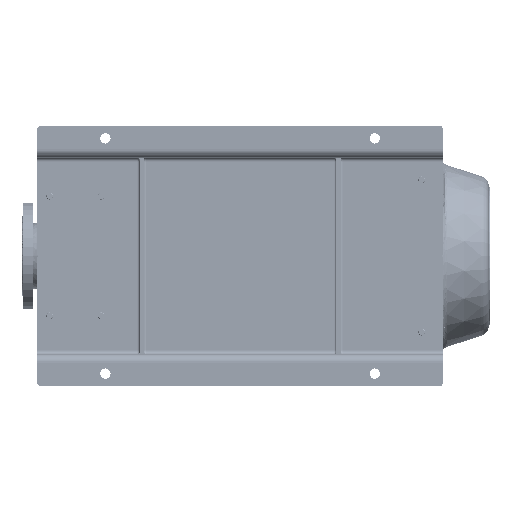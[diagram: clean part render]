
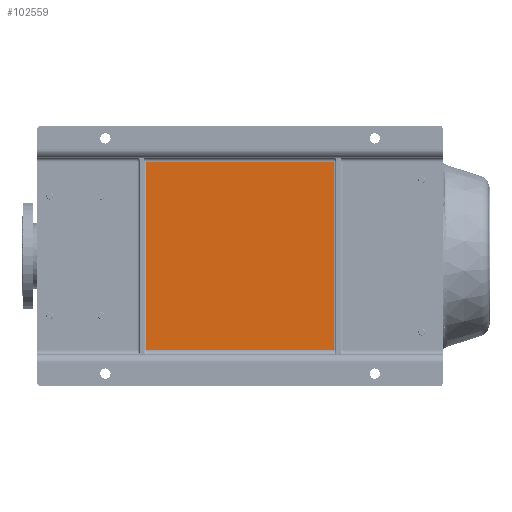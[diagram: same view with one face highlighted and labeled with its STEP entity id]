
A CAD part, front view. The second image highlights one B-rep face of the part: STEP entity #102559.
In plain terms, the highlighted planar face has unit normal (0, -1, 0).
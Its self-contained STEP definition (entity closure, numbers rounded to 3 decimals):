
#3057 = EDGE_LOOP ( 'NONE', ( #17806, #8349, #118860, #32177 ) ) ;
#5093 = VERTEX_POINT ( 'NONE', #121603 ) ;
#8349 = ORIENTED_EDGE ( 'NONE', *, *, #40407, .T. ) ;
#8722 = EDGE_CURVE ( 'NONE', #5093, #21348, #69111, .T. ) ;
#13846 = VERTEX_POINT ( 'NONE', #145608 ) ;
#17443 = FACE_OUTER_BOUND ( 'NONE', #3057, .T. ) ;
#17806 = ORIENTED_EDGE ( 'NONE', *, *, #28039, .T. ) ;
#21348 = VERTEX_POINT ( 'NONE', #156849 ) ;
#27293 = VECTOR ( 'NONE', #54762, 1000. ) ;
#28039 = EDGE_CURVE ( 'NONE', #13846, #58719, #119956, .T. ) ;
#32177 = ORIENTED_EDGE ( 'NONE', *, *, #103020, .T. ) ;
#35833 = LINE ( 'NONE', #86961, #69490 ) ;
#40407 = EDGE_CURVE ( 'NONE', #58719, #5093, #35833, .T. ) ;
#54762 = DIRECTION ( 'NONE',  ( -1., 0., 0. ) ) ;
#55986 = DIRECTION ( 'NONE',  ( 0., 0., -1. ) ) ;
#58719 = VERTEX_POINT ( 'NONE', #65247 ) ;
#65247 = CARTESIAN_POINT ( 'NONE',  ( 85., 65., -695. ) ) ;
#65707 = LINE ( 'NONE', #144471, #27293 ) ;
#69111 = LINE ( 'NONE', #69948, #78866 ) ;
#69490 = VECTOR ( 'NONE', #100342, 1000. ) ;
#69948 = CARTESIAN_POINT ( 'NONE',  ( 525., 65., -250. ) ) ;
#78866 = VECTOR ( 'NONE', #121088, 1000. ) ;
#86961 = CARTESIAN_POINT ( 'NONE',  ( 75., 65., -695. ) ) ;
#86965 = DIRECTION ( 'NONE',  ( 0., 0., -1. ) ) ;
#95400 = AXIS2_PLACEMENT_3D ( 'NONE', #107938, #156639, #55986 ) ;
#100342 = DIRECTION ( 'NONE',  ( 1., 0., 0. ) ) ;
#102559 = ADVANCED_FACE ( 'NONE', ( #17443 ), #119704, .T. ) ;
#103020 = EDGE_CURVE ( 'NONE', #21348, #13846, #65707, .T. ) ;
#106530 = CARTESIAN_POINT ( 'NONE',  ( 85., 65., -700. ) ) ;
#107938 = CARTESIAN_POINT ( 'NONE',  ( 75., 65., -950. ) ) ;
#118860 = ORIENTED_EDGE ( 'NONE', *, *, #8722, .T. ) ;
#119704 = PLANE ( 'NONE',  #95400 ) ;
#119956 = LINE ( 'NONE', #106530, #153427 ) ;
#121088 = DIRECTION ( 'NONE',  ( 0., 0., 1. ) ) ;
#121603 = CARTESIAN_POINT ( 'NONE',  ( 525., 65., -695. ) ) ;
#144471 = CARTESIAN_POINT ( 'NONE',  ( 75., 65., -255. ) ) ;
#145608 = CARTESIAN_POINT ( 'NONE',  ( 85., 65., -255. ) ) ;
#153427 = VECTOR ( 'NONE', #86965, 1000. ) ;
#156639 = DIRECTION ( 'NONE',  ( 0., -1., 0. ) ) ;
#156849 = CARTESIAN_POINT ( 'NONE',  ( 525., 65., -255. ) ) ;
